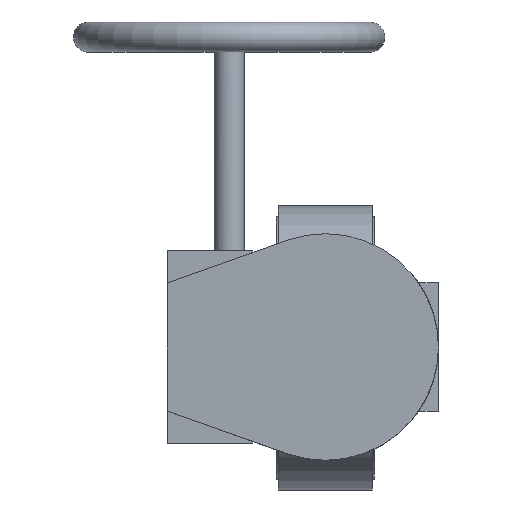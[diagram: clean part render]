
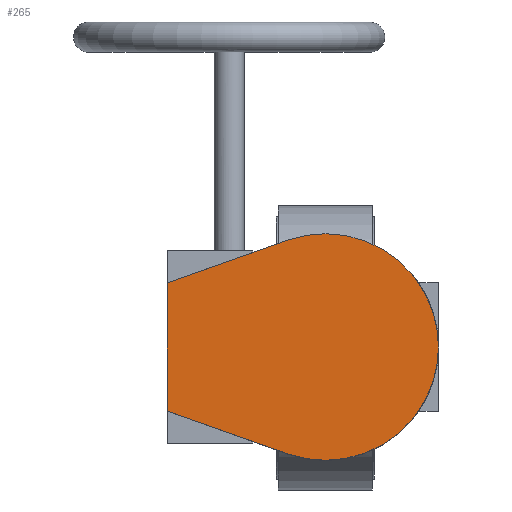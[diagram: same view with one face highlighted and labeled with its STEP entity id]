
A CAD part, top view. The second image highlights one B-rep face of the part: STEP entity #265.
In plain terms, the highlighted planar face has unit normal (0, 0, 1).
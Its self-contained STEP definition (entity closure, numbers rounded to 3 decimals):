
#265=ADVANCED_FACE('',(#6372),#6374,.T.);
#6372=FACE_BOUND('',#6373,.T.);
#6373=EDGE_LOOP('',(#11496,#11497,#11498,#11499));
#6374=PLANE('',#6375);
#6375=AXIS2_PLACEMENT_3D('',#6376,#6377,#6378);
#6376=CARTESIAN_POINT('',(0.,0.,230.));
#6377=DIRECTION('',(0.,0.,1.));
#6378=DIRECTION('',(0.,1.,0.));
#11496=ORIENTED_EDGE('',*,*,#15296,.T.);
#11497=ORIENTED_EDGE('',*,*,#15292,.T.);
#11498=ORIENTED_EDGE('',*,*,#15285,.T.);
#11499=ORIENTED_EDGE('',*,*,#15280,.T.);
#15280=EDGE_CURVE('',#17264,#17262,#17265,.T.);
#15285=EDGE_CURVE('',#17272,#17264,#17273,.T.);
#15292=EDGE_CURVE('',#17285,#17272,#17286,.T.);
#15296=EDGE_CURVE('',#17262,#17285,#17291,.T.);
#17262=VERTEX_POINT('',#20569);
#17264=VERTEX_POINT('',#20573);
#17265=LINE('',#20574,#20575);
#17272=VERTEX_POINT('',#20591);
#17273=LINE('',#20592,#20593);
#17285=VERTEX_POINT('',#20618);
#17286=LINE('',#20619,#20620);
#17291=CIRCLE('',#20632,53.);
#20569=CARTESIAN_POINT('',(-17.708,-49.954,230.));
#20573=CARTESIAN_POINT('',(-74.,-30.,230.));
#20574=CARTESIAN_POINT('',(-74.,-30.,230.));
#20575=VECTOR('',#20576,1.);
#20576=DIRECTION('',(0.943,-0.334,0.));
#20591=CARTESIAN_POINT('',(-74.,30.,230.));
#20592=CARTESIAN_POINT('',(-74.,30.,230.));
#20593=VECTOR('',#20594,1.);
#20594=DIRECTION('',(0.,-1.,0.));
#20618=CARTESIAN_POINT('',(-17.708,49.954,230.));
#20619=CARTESIAN_POINT('',(-17.708,49.954,230.));
#20620=VECTOR('',#20621,1.);
#20621=DIRECTION('',(-0.943,-0.334,0.));
#20632=AXIS2_PLACEMENT_3D('',#20633,#20634,#20635);
#20633=CARTESIAN_POINT('',(0.,0.,230.));
#20634=DIRECTION('',(0.,0.,1.));
#20635=DIRECTION('',(-0.334,-0.943,0.));
